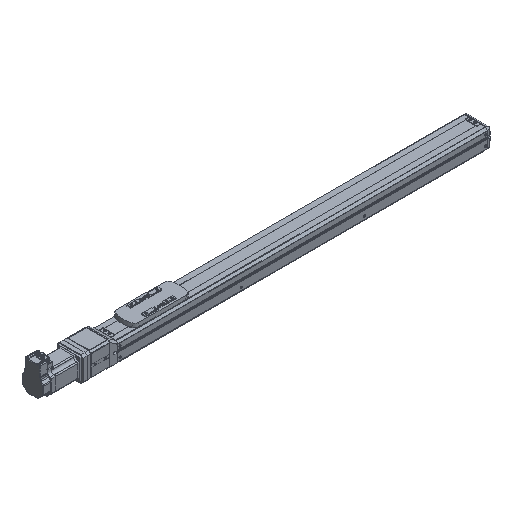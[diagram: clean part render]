
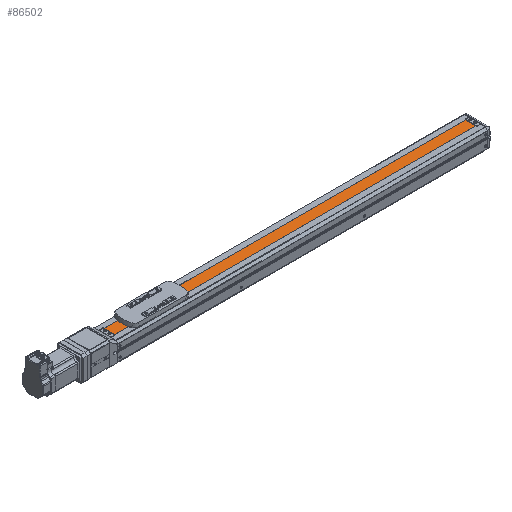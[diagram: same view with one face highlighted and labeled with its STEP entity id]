
A CAD part, isometric view. The second image highlights one B-rep face of the part: STEP entity #86502.
In plain terms, the highlighted planar face has unit normal (0, 0, 1) as drawn and (0, 1, 0) by its records, which use the part's own axes.
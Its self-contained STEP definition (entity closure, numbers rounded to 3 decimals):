
#86502 = ADVANCED_FACE('',(#86503),#86517,.T.);
#86503 = FACE_BOUND('',#86504,.T.);
#86504 = EDGE_LOOP('',(#86505,#86540,#86568,#86596));
#86505 = ORIENTED_EDGE('',*,*,#86506,.F.);
#86506 = EDGE_CURVE('',#86507,#86509,#86511,.T.);
#86507 = VERTEX_POINT('',#86508);
#86508 = CARTESIAN_POINT('',(-930.5,18.,-13.));
#86509 = VERTEX_POINT('',#86510);
#86510 = CARTESIAN_POINT('',(-21.5,18.,-13.));
#86511 = SURFACE_CURVE('',#86512,(#86516,#86528),.PCURVE_S1.);
#86512 = LINE('',#86513,#86514);
#86513 = CARTESIAN_POINT('',(-930.5,18.,-13.));
#86514 = VECTOR('',#86515,1.);
#86515 = DIRECTION('',(1.,0.,0.));
#86516 = PCURVE('',#86517,#86522);
#86517 = PLANE('',#86518);
#86518 = AXIS2_PLACEMENT_3D('',#86519,#86520,#86521);
#86519 = CARTESIAN_POINT('',(-940.5,18.,-26.583));
#86520 = DIRECTION('',(0.,1.,0.));
#86521 = DIRECTION('',(0.,-0.,1.));
#86522 = DEFINITIONAL_REPRESENTATION('',(#86523),#86527);
#86523 = LINE('',#86524,#86525);
#86524 = CARTESIAN_POINT('',(13.583,10.));
#86525 = VECTOR('',#86526,1.);
#86526 = DIRECTION('',(0.,1.));
#86527 = ( GEOMETRIC_REPRESENTATION_CONTEXT(2) 
PARAMETRIC_REPRESENTATION_CONTEXT() REPRESENTATION_CONTEXT('2D SPACE',''
  ) );
#86528 = PCURVE('',#86529,#86534);
#86529 = PLANE('',#86530);
#86530 = AXIS2_PLACEMENT_3D('',#86531,#86532,#86533);
#86531 = CARTESIAN_POINT('',(-930.5,18.,-13.));
#86532 = DIRECTION('',(0.,0.,1.));
#86533 = DIRECTION('',(1.,0.,-0.));
#86534 = DEFINITIONAL_REPRESENTATION('',(#86535),#86539);
#86535 = LINE('',#86536,#86537);
#86536 = CARTESIAN_POINT('',(0.,0.));
#86537 = VECTOR('',#86538,1.);
#86538 = DIRECTION('',(1.,0.));
#86539 = ( GEOMETRIC_REPRESENTATION_CONTEXT(2) 
PARAMETRIC_REPRESENTATION_CONTEXT() REPRESENTATION_CONTEXT('2D SPACE',''
  ) );
#86540 = ORIENTED_EDGE('',*,*,#86541,.T.);
#86541 = EDGE_CURVE('',#86507,#86542,#86544,.T.);
#86542 = VERTEX_POINT('',#86543);
#86543 = CARTESIAN_POINT('',(-930.5,18.,13.));
#86544 = SURFACE_CURVE('',#86545,(#86549,#86556),.PCURVE_S1.);
#86545 = LINE('',#86546,#86547);
#86546 = CARTESIAN_POINT('',(-930.5,18.,-26.583));
#86547 = VECTOR('',#86548,1.);
#86548 = DIRECTION('',(0.,0.,1.));
#86549 = PCURVE('',#86517,#86550);
#86550 = DEFINITIONAL_REPRESENTATION('',(#86551),#86555);
#86551 = LINE('',#86552,#86553);
#86552 = CARTESIAN_POINT('',(0.,10.));
#86553 = VECTOR('',#86554,1.);
#86554 = DIRECTION('',(1.,0.));
#86555 = ( GEOMETRIC_REPRESENTATION_CONTEXT(2) 
PARAMETRIC_REPRESENTATION_CONTEXT() REPRESENTATION_CONTEXT('2D SPACE',''
  ) );
#86556 = PCURVE('',#86557,#86562);
#86557 = PLANE('',#86558);
#86558 = AXIS2_PLACEMENT_3D('',#86559,#86560,#86561);
#86559 = CARTESIAN_POINT('',(-930.5,0.,0.));
#86560 = DIRECTION('',(1.,0.,0.));
#86561 = DIRECTION('',(0.,0.,-1.));
#86562 = DEFINITIONAL_REPRESENTATION('',(#86563),#86567);
#86563 = LINE('',#86564,#86565);
#86564 = CARTESIAN_POINT('',(26.583,18.));
#86565 = VECTOR('',#86566,1.);
#86566 = DIRECTION('',(-1.,0.));
#86567 = ( GEOMETRIC_REPRESENTATION_CONTEXT(2) 
PARAMETRIC_REPRESENTATION_CONTEXT() REPRESENTATION_CONTEXT('2D SPACE',''
  ) );
#86568 = ORIENTED_EDGE('',*,*,#86569,.T.);
#86569 = EDGE_CURVE('',#86542,#86570,#86572,.T.);
#86570 = VERTEX_POINT('',#86571);
#86571 = CARTESIAN_POINT('',(-21.5,18.,13.));
#86572 = SURFACE_CURVE('',#86573,(#86577,#86584),.PCURVE_S1.);
#86573 = LINE('',#86574,#86575);
#86574 = CARTESIAN_POINT('',(-930.5,18.,13.));
#86575 = VECTOR('',#86576,1.);
#86576 = DIRECTION('',(1.,0.,0.));
#86577 = PCURVE('',#86517,#86578);
#86578 = DEFINITIONAL_REPRESENTATION('',(#86579),#86583);
#86579 = LINE('',#86580,#86581);
#86580 = CARTESIAN_POINT('',(39.583,10.));
#86581 = VECTOR('',#86582,1.);
#86582 = DIRECTION('',(0.,1.));
#86583 = ( GEOMETRIC_REPRESENTATION_CONTEXT(2) 
PARAMETRIC_REPRESENTATION_CONTEXT() REPRESENTATION_CONTEXT('2D SPACE',''
  ) );
#86584 = PCURVE('',#86585,#86590);
#86585 = PLANE('',#86586);
#86586 = AXIS2_PLACEMENT_3D('',#86587,#86588,#86589);
#86587 = CARTESIAN_POINT('',(-930.5,15.,13.));
#86588 = DIRECTION('',(0.,0.,-1.));
#86589 = DIRECTION('',(-1.,0.,0.));
#86590 = DEFINITIONAL_REPRESENTATION('',(#86591),#86595);
#86591 = LINE('',#86592,#86593);
#86592 = CARTESIAN_POINT('',(0.,3.));
#86593 = VECTOR('',#86594,1.);
#86594 = DIRECTION('',(-1.,0.));
#86595 = ( GEOMETRIC_REPRESENTATION_CONTEXT(2) 
PARAMETRIC_REPRESENTATION_CONTEXT() REPRESENTATION_CONTEXT('2D SPACE',''
  ) );
#86596 = ORIENTED_EDGE('',*,*,#86597,.T.);
#86597 = EDGE_CURVE('',#86570,#86509,#86598,.T.);
#86598 = SURFACE_CURVE('',#86599,(#86603,#86610),.PCURVE_S1.);
#86599 = LINE('',#86600,#86601);
#86600 = CARTESIAN_POINT('',(-21.5,18.,-26.583));
#86601 = VECTOR('',#86602,1.);
#86602 = DIRECTION('',(0.,0.,-1.));
#86603 = PCURVE('',#86517,#86604);
#86604 = DEFINITIONAL_REPRESENTATION('',(#86605),#86609);
#86605 = LINE('',#86606,#86607);
#86606 = CARTESIAN_POINT('',(0.,919.));
#86607 = VECTOR('',#86608,1.);
#86608 = DIRECTION('',(-1.,0.));
#86609 = ( GEOMETRIC_REPRESENTATION_CONTEXT(2) 
PARAMETRIC_REPRESENTATION_CONTEXT() REPRESENTATION_CONTEXT('2D SPACE',''
  ) );
#86610 = PCURVE('',#86611,#86616);
#86611 = PLANE('',#86612);
#86612 = AXIS2_PLACEMENT_3D('',#86613,#86614,#86615);
#86613 = CARTESIAN_POINT('',(-21.5,0.,0.));
#86614 = DIRECTION('',(1.,0.,0.));
#86615 = DIRECTION('',(0.,0.,-1.));
#86616 = DEFINITIONAL_REPRESENTATION('',(#86617),#86621);
#86617 = LINE('',#86618,#86619);
#86618 = CARTESIAN_POINT('',(26.583,18.));
#86619 = VECTOR('',#86620,1.);
#86620 = DIRECTION('',(1.,0.));
#86621 = ( GEOMETRIC_REPRESENTATION_CONTEXT(2) 
PARAMETRIC_REPRESENTATION_CONTEXT() REPRESENTATION_CONTEXT('2D SPACE',''
  ) );
